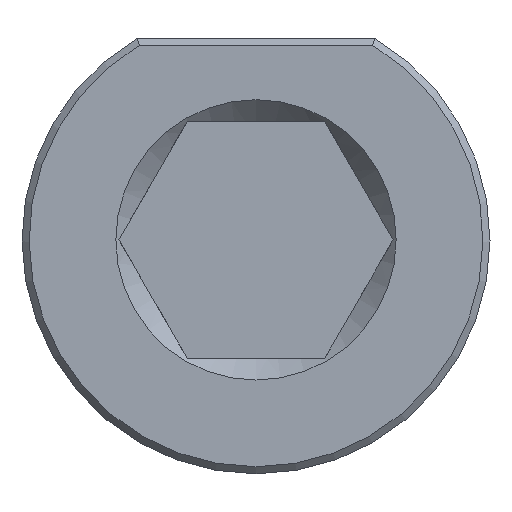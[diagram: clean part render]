
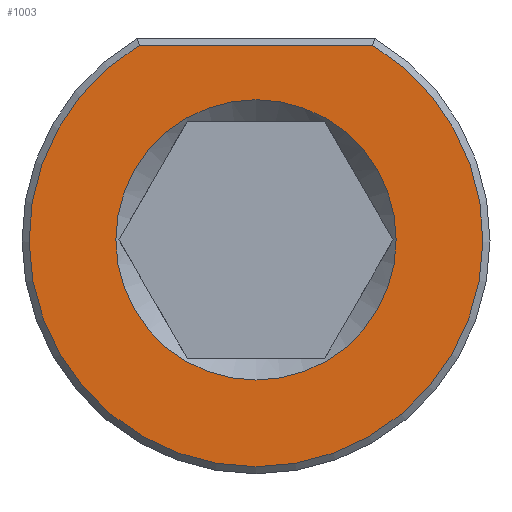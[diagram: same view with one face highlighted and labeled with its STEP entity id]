
A CAD part, front view. The second image highlights one B-rep face of the part: STEP entity #1003.
In plain terms, the highlighted planar face has unit normal (0, -1, 0).
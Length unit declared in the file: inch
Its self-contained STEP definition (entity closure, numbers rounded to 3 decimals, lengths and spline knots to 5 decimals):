
#100=FACE_BOUND('',#282,.T.);
#130=LINE('',#1816,#178);
#178=VECTOR('',#1287,0.3937);
#222=FACE_OUTER_BOUND('',#281,.T.);
#281=EDGE_LOOP('',(#741,#742));
#282=EDGE_LOOP('',(#743));
#348=CIRCLE('',#1107,0.4775);
#350=CIRCLE('',#1112,0.295);
#445=VERTEX_POINT('',#1804);
#446=VERTEX_POINT('',#1809);
#449=VERTEX_POINT('',#1825);
#561=EDGE_CURVE('',#445,#446,#348,.T.);
#563=EDGE_CURVE('',#446,#445,#130,.T.);
#568=EDGE_CURVE('',#449,#449,#350,.T.);
#741=ORIENTED_EDGE('',*,*,#561,.F.);
#742=ORIENTED_EDGE('',*,*,#563,.F.);
#743=ORIENTED_EDGE('',*,*,#568,.F.);
#972=PLANE('',#1111);
#1003=ADVANCED_FACE('',(#222,#100),#972,.F.);
#1107=AXIS2_PLACEMENT_3D('',#1810,#1283,#1284);
#1111=AXIS2_PLACEMENT_3D('',#1824,#1295,#1296);
#1112=AXIS2_PLACEMENT_3D('',#1826,#1297,#1298);
#1283=DIRECTION('center_axis',(0.,1.,0.));
#1284=DIRECTION('ref_axis',(-0.507,0.,-0.862));
#1287=DIRECTION('',(1.,0.,0.));
#1295=DIRECTION('center_axis',(0.,1.,0.));
#1296=DIRECTION('ref_axis',(1.,0.,0.));
#1297=DIRECTION('center_axis',(0.,-1.,0.));
#1298=DIRECTION('ref_axis',(1.,0.,0.));
#1804=CARTESIAN_POINT('',(0.24559,0.,0.4095));
#1809=CARTESIAN_POINT('',(-0.24559,0.,0.4095));
#1810=CARTESIAN_POINT('Origin',(0.,0.,0.));
#1816=CARTESIAN_POINT('',(-0.12486,0.,0.4095));
#1824=CARTESIAN_POINT('Origin',(0.,0.,-0.034));
#1825=CARTESIAN_POINT('',(-0.295,0.,0.));
#1826=CARTESIAN_POINT('Origin',(0.,0.,0.));
